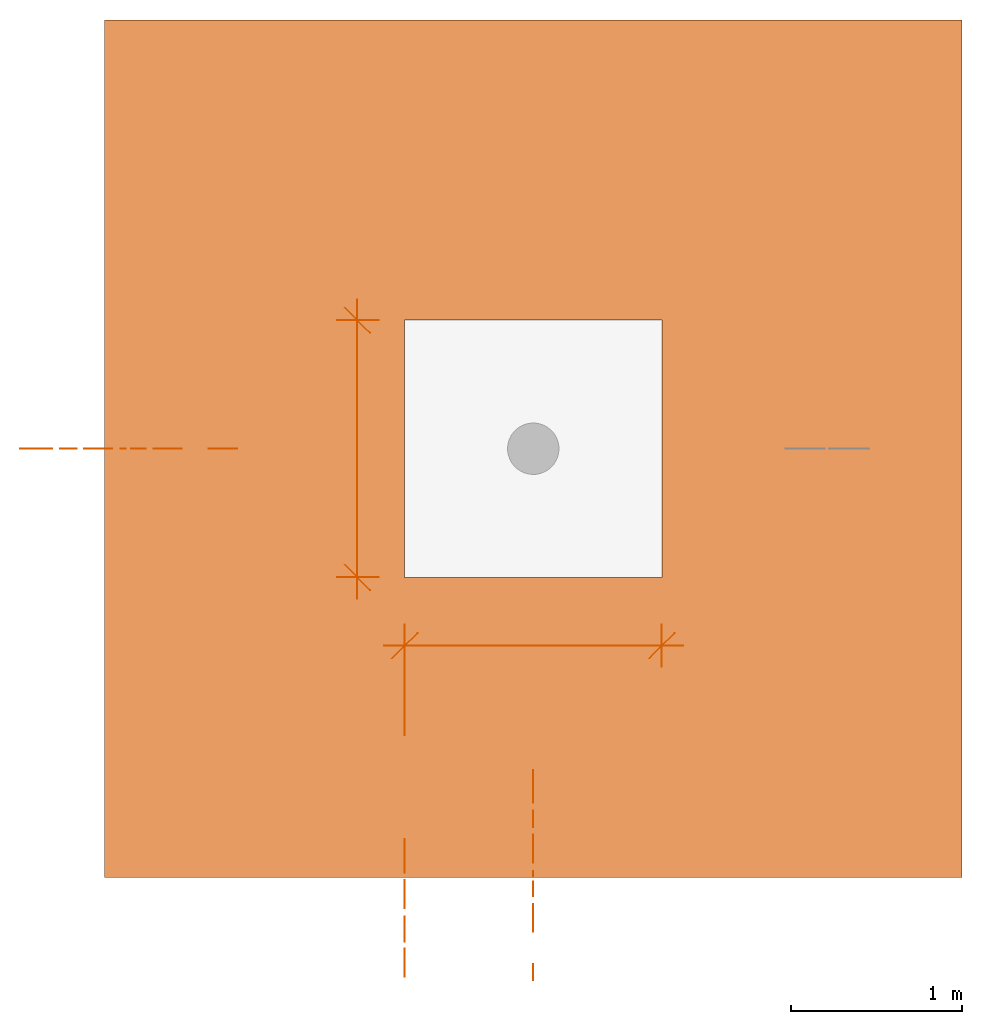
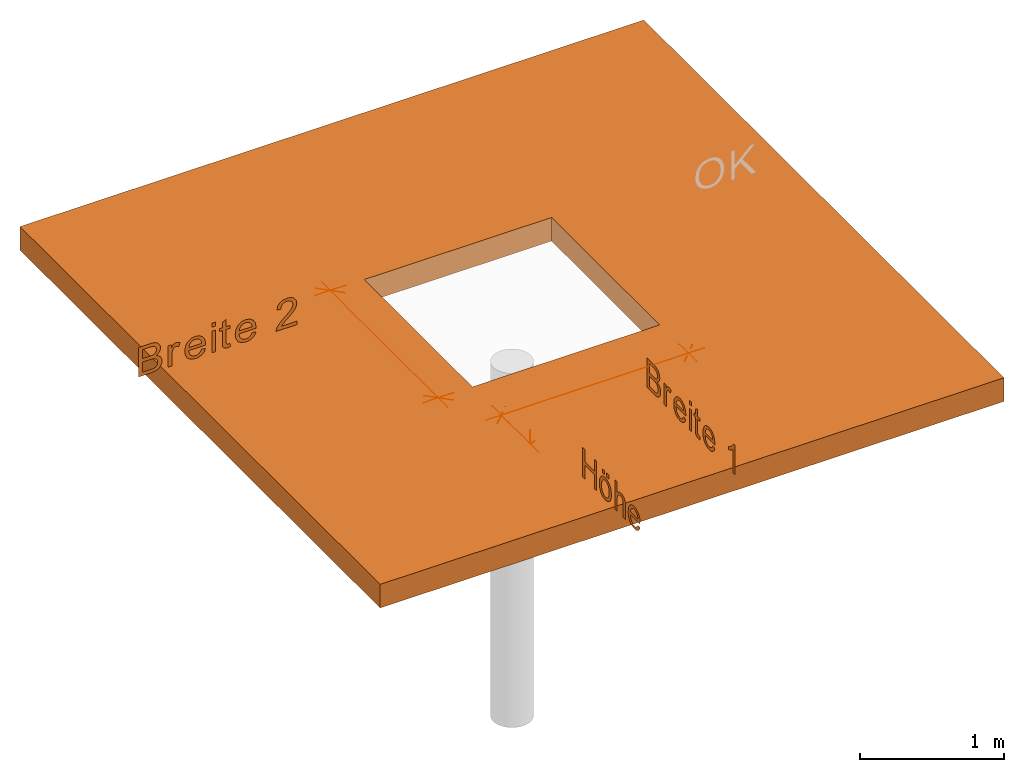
# One storey, part 2 of 3: 7 proxies, 6 elements without a shape of their own.
"""IFC4 building model written with IfcOpenShell, lengths in metres."""

from ifc_helpers import new_model, entity, si_unit, converted_unit, derived_unit, frame, origin, origin_with_axes, place, context, subcontext, project, spatial, open_shell, faceted_brep, surface_model, source, transform, mapped, element, aggregate, save


model = new_model("IFC4")

# Units and contexts
model_context = context("Model", 3, precision=1e-05, world=origin())
body_context = subcontext(model_context, "Body", "Model", "MODEL_VIEW")
ifc_project = project(units=[si_unit("LENGTHUNIT", "METRE"), si_unit("AREAUNIT", "SQUARE_METRE"), si_unit("VOLUMEUNIT", "CUBIC_METRE"), si_unit("MASSUNIT", "GRAM", prefix="KILO"), converted_unit("PLANEANGLEUNIT", "DEGREE", entity("IfcPlaneAngleMeasure", 0.0174532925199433), si_unit("PLANEANGLEUNIT", "RADIAN"), dimensions=[0, 0, 0, 0, 0, 0, 0]), derived_unit("THERMALTRANSMITTANCEUNIT", [(si_unit("POWERUNIT", "WATT"), 1), (si_unit("THERMODYNAMICTEMPERATUREUNIT", "KELVIN"), -1), (si_unit("LENGTHUNIT", "METRE"), -2)]), derived_unit("VOLUMETRICFLOWRATEUNIT", [(si_unit("LENGTHUNIT", "METRE"), 3), (converted_unit("TIMEUNIT", "hour", entity("IfcTimeMeasure", 3600.0), si_unit("TIMEUNIT", "SECOND"), dimensions=[0, 0, 1, 0, 0, 0, 0]), -1), (si_unit("LENGTHUNIT", "METRE"), -1)])], contexts=[model_context])

# Site, building, storey
site_placement = place(None, origin())
site = spatial("IfcSite", under=ifc_project, at=site_placement, Name="Liegenschaft", CompositionType="ELEMENT")
building_placement = place(site_placement, origin())
building = spatial("IfcBuilding", under=site, at=building_placement, Name="Gebäude", CompositionType="ELEMENT")
storey_placement = place(building_placement, origin())
storey = spatial("IfcBuildingStorey", under=building, at=storey_placement, Name="Geschoss 01", CompositionType="ELEMENT", Elevation=0.0)

# Assembly, proxy
assembly_1_placement = place(storey_placement, origin())
assembly_1 = element("IfcElementAssembly", 1, at=assembly_1_placement, inside=storey, Name="SpatialDim_Group", PredefinedType="NOTDEFINED")
shared_shape_1 = source(origin_with_axes(), body_context, "Axis", "Curve3D", [
    entity("IfcPolyline", [entity("IfcCartesianPoint", [0.05, 0.0499999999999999, 0.0]), entity("IfcCartesianPoint", [0.2, 0.2, 0.0])]),
    entity("IfcPolyline", [entity("IfcCartesianPoint", [0.125, 0.0, 0.0]), entity("IfcCartesianPoint", [0.125, 0.425, 0.0])]),
    entity("IfcPolyline", [entity("IfcCartesianPoint", [0.550000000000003, 0.0499999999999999, 0.0]), entity("IfcCartesianPoint", [0.700000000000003, 0.2, 0.0])]),
    entity("IfcPolyline", [entity("IfcCartesianPoint", [0.625000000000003, 0.0, 0.0]), entity("IfcCartesianPoint", [0.625000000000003, 0.425, 0.0])]),
    entity("IfcPolyline", [entity("IfcCartesianPoint", [0.0, 0.125, 0.0]), entity("IfcCartesianPoint", [0.750000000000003, 0.125, 0.0])]),
])
proxy_1_placement = place(assembly_1_placement, frame((268.067467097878, 0.111335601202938, 0.125), z_axis=(1.0, 0.0, 1.22464679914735e-16), x_axis=(1.22464679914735e-16, 0.0, -1.0)))
proxy_1 = element("IfcBuildingElementProxy", 2, at=proxy_1_placement, Name="macro", context=body_context, shape_type="MappedRepresentation", body=[
    mapped(shared_shape_1, transform((0.0, 0.0, 0.0), x_axis=(1.0, 0.0, 0.0), y_axis=(0.0, 1.0, 0.0), z_axis=(0.0, 0.0, 1.0), scale=1.0)),
])
aggregate(assembly_1, [proxy_1])

assembly_2_placement = place(storey_placement, origin())
assembly_2 = element("IfcElementAssembly", 3, at=assembly_2_placement, inside=storey, Name="SpatialDim_Group", PredefinedType="NOTDEFINED")
shared_shape_2 = source(origin_with_axes(), body_context, "Body", "SurfaceModel", [
    surface_model("IfcShellBasedSurfaceModel", [(0.414145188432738, 0.801, 0.0), (0.414145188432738, 0.768, 0.0), (0.532145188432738, 0.768, 0.0), (0.532145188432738, 0.638, 0.0), (0.414145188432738, 0.638, 0.0), (0.414145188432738, 0.605, 0.0), (0.664145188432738, 0.605, 0.0), (0.664145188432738, 0.638, 0.0), (0.561145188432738, 0.638, 0.0), (0.561145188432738, 0.768, 0.0), (0.664145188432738, 0.768, 0.0), (0.664145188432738, 0.801, 0.0)], [open_shell([[[0, 1, 2, 3, 4, 5, 6, 7, 8, 9, 10, 11]]], orient=[[False]])]),
    surface_model("IfcShellBasedSurfaceModel", [(0.617145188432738, 0.465, 0.0), (0.617145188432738, 0.433, 0.0), (0.651145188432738, 0.433, 0.0), (0.651145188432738, 0.465, 0.0), (0.617145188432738, 0.527, 0.0), (0.617145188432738, 0.495, 0.0), (0.651145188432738, 0.495, 0.0), (0.651145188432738, 0.527, 0.0), (0.464020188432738, 0.562125, 0.0), (0.434145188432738, 0.545, 0.0), (0.416145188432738, 0.517875, 0.0), (0.410145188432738, 0.484, 0.0), (0.413020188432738, 0.461, 0.0), (0.421145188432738, 0.441, 0.0), (0.434770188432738, 0.422875, 0.0), (0.452145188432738, 0.41, 0.0), (0.476270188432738, 0.402375, 0.0), (0.507145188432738, 0.4, 0.0), (0.546020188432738, 0.405875, 0.0), (0.575145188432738, 0.423, 0.0), (0.593145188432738, 0.4505, 0.0), (0.599145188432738, 0.484, 0.0), (0.594020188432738, 0.514625, 0.0), (0.579145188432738, 0.54, 0.0), (0.548520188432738, 0.561125, 0.0), (0.505145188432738, 0.568, 0.0), (0.474520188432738, 0.53325, 0.0), (0.505145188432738, 0.537, 0.0), (0.535270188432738, 0.53325, 0.0), (0.557145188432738, 0.522, 0.0), (0.570145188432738, 0.504875, 0.0), (0.574145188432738, 0.484, 0.0), (0.569770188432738, 0.46275, 0.0), (0.557145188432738, 0.446, 0.0), (0.535395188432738, 0.43475, 0.0), (0.506145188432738, 0.431, 0.0), (0.474645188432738, 0.43475, 0.0), (0.452145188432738, 0.446, 0.0), (0.439145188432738, 0.463125, 0.0), (0.435145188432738, 0.484, 0.0), (0.439520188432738, 0.50525, 0.0), (0.452145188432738, 0.522, 0.0)], [open_shell([[[0, 1, 2, 3]], [[4, 5, 6, 7]], [[8, 9, 10, 11, 12, 13, 14, 15, 16, 17, 18, 19, 20, 21, 22, 23, 24, 25], [26, 27, 28, 29, 30, 31, 32, 33, 34, 35, 36, 37, 38, 39, 40, 41]]], orient=[[False], [False], [False, False]])]),
    surface_model("IfcShellBasedSurfaceModel", [(0.414145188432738, 0.351, 0.0), (0.414145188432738, 0.32, 0.0), (0.513145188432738, 0.32, 0.0), (0.532770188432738, 0.318625, 0.0), (0.547145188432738, 0.315, 0.0), (0.558145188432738, 0.308, 0.0), (0.566145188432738, 0.298, 0.0), (0.571520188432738, 0.285875, 0.0), (0.573145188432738, 0.273, 0.0), (0.570395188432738, 0.25725, 0.0), (0.563145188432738, 0.246, 0.0), (0.548770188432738, 0.238375, 0.0), (0.529145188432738, 0.236, 0.0), (0.414145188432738, 0.236, 0.0), (0.414145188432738, 0.205, 0.0), (0.529145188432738, 0.205, 0.0), (0.552520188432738, 0.2065, 0.0), (0.569145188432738, 0.211, 0.0), (0.582020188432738, 0.22, 0.0), (0.591145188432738, 0.232, 0.0), (0.597395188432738, 0.248375, 0.0), (0.599145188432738, 0.267, 0.0), (0.593145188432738, 0.2965, 0.0), (0.575145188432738, 0.32, 0.0), (0.664145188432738, 0.32, 0.0), (0.664145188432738, 0.351, 0.0)], [open_shell([[[0, 1, 2, 3, 4, 5, 6, 7, 8, 9, 10, 11, 12, 13, 14, 15, 16, 17, 18, 19, 20, 21, 22, 23, 24, 25]]], orient=[[False]])]),
    surface_model("IfcShellBasedSurfaceModel", [(0.472145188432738, 0.032, 0.0), (0.455520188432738, 0.040875, 0.0), (0.444145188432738, 0.052, 0.0), (0.437395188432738, 0.065375, 0.0), (0.435145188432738, 0.081, 0.0), (0.439395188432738, 0.10275, 0.0), (0.451145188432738, 0.12, 0.0), (0.470770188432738, 0.131875, 0.0), (0.497145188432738, 0.137, 0.0), (0.497145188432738, 0.0, 0.0), (0.501895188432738, 0.0, 0.0), (0.505145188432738, 0.0, 0.0), (0.544895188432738, 0.005875, 0.0), (0.574145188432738, 0.023, 0.0), (0.593020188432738, 0.05, 0.0), (0.599145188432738, 0.083, 0.0), (0.592645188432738, 0.117625, 0.0), (0.574145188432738, 0.144, 0.0), (0.543520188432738, 0.162, 0.0), (0.503145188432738, 0.168, 0.0), (0.463395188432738, 0.162125, 0.0), (0.434145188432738, 0.145, 0.0), (0.416145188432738, 0.11675, 0.0), (0.410145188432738, 0.081, 0.0), (0.413895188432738, 0.051625, 0.0), (0.425145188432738, 0.029, 0.0), (0.443645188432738, 0.011625, 0.0), (0.468145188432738, 0.001, 0.0), (0.541770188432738, 0.03575, 0.0), (0.522145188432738, 0.032, 0.0), (0.522145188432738, 0.136, 0.0), (0.543770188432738, 0.130625, 0.0), (0.560145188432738, 0.12, 0.0), (0.570895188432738, 0.103, 0.0), (0.574145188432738, 0.083, 0.0), (0.569645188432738, 0.06125, 0.0), (0.556145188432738, 0.044, 0.0)], [open_shell([[[0, 1, 2, 3, 4, 5, 6, 7, 8, 9, 10, 11, 12, 13, 14, 15, 16, 17, 18, 19, 20, 21, 22, 23, 24, 25, 26, 27], [28, 29, 30, 31, 32, 33, 34, 35, 36]]], orient=[[False, False]])]),
])
proxy_2_placement = place(assembly_2_placement, frame((268.067467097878, -1.29266439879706, -0.250000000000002), z_axis=(-1.0, 0.0, 1.22464679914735e-16), x_axis=(1.22464679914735e-16, 0.0, 1.0)))
proxy_2 = element("IfcBuildingElementProxy", 4, at=proxy_2_placement, Name="macro", context=body_context, shape_type="MappedRepresentation", body=[
    mapped(shared_shape_2, transform((0.0, 0.0, 0.0), x_axis=(1.0, 0.0, 0.0), y_axis=(0.0, 1.0, 0.0), z_axis=(0.0, 0.0, 1.0), scale=1.0)),
])
aggregate(assembly_2, [proxy_2])

assembly_3_placement = place(storey_placement, origin())
assembly_3 = element("IfcElementAssembly", 5, at=assembly_3_placement, inside=storey, Name="SpatialDim_Group", PredefinedType="NOTDEFINED")
shared_shape_3 = source(origin_with_axes(), body_context, "Axis", "Curve3D", [
    entity("IfcPolyline", [entity("IfcCartesianPoint", [0.05, 0.05, 0.0]), entity("IfcCartesianPoint", [0.2, 0.2, 0.0])]),
    entity("IfcPolyline", [entity("IfcCartesianPoint", [0.125, 0.0, 0.0]), entity("IfcCartesianPoint", [0.125, 0.25, 0.0])]),
    entity("IfcPolyline", [entity("IfcCartesianPoint", [1.55, 0.05, 0.0]), entity("IfcCartesianPoint", [1.7, 0.2, 0.0])]),
    entity("IfcPolyline", [entity("IfcCartesianPoint", [1.625, 0.0, 0.0]), entity("IfcCartesianPoint", [1.625, 0.25, 0.0])]),
    entity("IfcPolyline", [entity("IfcCartesianPoint", [0.0, 0.125, 0.0]), entity("IfcCartesianPoint", [1.75, 0.125, 0.0])]),
])
proxy_3_placement = place(assembly_3_placement, frame((267.942467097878, 0.511335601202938, 0.0)))
proxy_3 = element("IfcBuildingElementProxy", 6, at=proxy_3_placement, Name="macro", context=body_context, shape_type="MappedRepresentation", body=[
    mapped(shared_shape_3, transform((0.0, 0.0, 0.0), x_axis=(1.0, 0.0, 0.0), y_axis=(0.0, 1.0, 0.0), z_axis=(0.0, 0.0, 1.0), scale=1.0)),
])
aggregate(assembly_3, [proxy_3])

assembly_4_placement = place(storey_placement, origin())
assembly_4 = element("IfcElementAssembly", 7, at=assembly_4_placement, inside=storey, Name="SpatialDim_Group", PredefinedType="NOTDEFINED")
shared_shape_4 = source(origin_with_axes(), body_context, "Body", "SurfaceModel", [
    surface_model("IfcShellBasedSurfaceModel", [(0.414145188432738, 1.222, 0.0), (0.414145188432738, 1.127, 0.0), (0.415395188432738, 1.10475, 0.0), (0.418145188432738, 1.087, 0.0), (0.423395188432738, 1.072, 0.0), (0.430145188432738, 1.06, 0.0), (0.440645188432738, 1.049375, 0.0), (0.454145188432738, 1.041, 0.0), (0.469770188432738, 1.035625, 0.0), (0.486145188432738, 1.034, 0.0), (0.506520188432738, 1.037, 0.0), (0.523145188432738, 1.046, 0.0), (0.537270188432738, 1.061625, 0.0), (0.546145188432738, 1.081, 0.0), (0.556520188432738, 1.06575, 0.0), (0.569145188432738, 1.055, 0.0), (0.584270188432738, 1.04825, 0.0), (0.600145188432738, 1.046, 0.0), (0.617395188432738, 1.04875, 0.0), (0.633145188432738, 1.056, 0.0), (0.647270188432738, 1.068, 0.0), (0.656145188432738, 1.083, 0.0), (0.662395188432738, 1.103375, 0.0), (0.664145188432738, 1.129, 0.0), (0.664145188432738, 1.222, 0.0), (0.558895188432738, 1.116875, 0.0), (0.558145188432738, 1.135, 0.0), (0.558145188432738, 1.189, 0.0), (0.635145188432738, 1.189, 0.0), (0.635145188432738, 1.139, 0.0), (0.633895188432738, 1.116375, 0.0), (0.631145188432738, 1.102, 0.0), (0.626145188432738, 1.092, 0.0), (0.618145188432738, 1.085, 0.0), (0.607895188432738, 1.0805, 0.0), (0.596145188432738, 1.079, 0.0), (0.584020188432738, 1.0805, 0.0), (0.574145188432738, 1.085, 0.0), (0.566145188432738, 1.093375, 0.0), (0.561145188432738, 1.104, 0.0), (0.443270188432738, 1.11375, 0.0), (0.443145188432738, 1.127, 0.0), (0.443145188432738, 1.189, 0.0), (0.529145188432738, 1.189, 0.0), (0.529145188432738, 1.132, 0.0), (0.527895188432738, 1.1105, 0.0), (0.525145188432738, 1.095, 0.0), (0.519145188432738, 1.083875, 0.0), (0.510145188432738, 1.075, 0.0), (0.498895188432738, 1.069625, 0.0), (0.486145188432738, 1.068, 0.0), (0.474895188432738, 1.069375, 0.0), (0.465145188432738, 1.073, 0.0), (0.457020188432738, 1.079125, 0.0), (0.451145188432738, 1.086, 0.0), (0.446520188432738, 1.094375, 0.0), (0.444145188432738, 1.105, 0.0)], [open_shell([[[0, 1, 2, 3, 4, 5, 6, 7, 8, 9, 10, 11, 12, 13, 14, 15, 16, 17, 18, 19, 20, 21, 22, 23, 24], [25, 26, 27, 28, 29, 30, 31, 32, 33, 34, 35, 36, 37, 38, 39], [40, 41, 42, 43, 44, 45, 46, 47, 48, 49, 50, 51, 52, 53, 54, 55, 56]]], orient=[[False, False, False]])]),
    surface_model("IfcShellBasedSurfaceModel", [(0.414145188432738, 0.986, 0.0), (0.414145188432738, 0.955, 0.0), (0.509145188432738, 0.955, 0.0), (0.527770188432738, 0.953625, 0.0), (0.544145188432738, 0.95, 0.0), (0.554145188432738, 0.945625, 0.0), (0.561145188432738, 0.939, 0.0), (0.565645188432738, 0.93, 0.0), (0.567145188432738, 0.921, 0.0), (0.565645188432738, 0.90975, 0.0), (0.561145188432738, 0.9, 0.0), (0.589145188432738, 0.889, 0.0), (0.596770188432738, 0.904875, 0.0), (0.599145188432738, 0.92, 0.0), (0.597645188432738, 0.93075, 0.0), (0.593145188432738, 0.94, 0.0), (0.583520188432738, 0.9495, 0.0), (0.567145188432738, 0.959, 0.0), (0.595145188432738, 0.959, 0.0), (0.595145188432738, 0.986, 0.0)], [open_shell([[[0, 1, 2, 3, 4, 5, 6, 7, 8, 9, 10, 11, 12, 13, 14, 15, 16, 17, 18, 19]]], orient=[[False]])]),
    surface_model("IfcShellBasedSurfaceModel", [(0.472145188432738, 0.716, 0.0), (0.455520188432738, 0.724875, 0.0), (0.444145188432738, 0.736, 0.0), (0.437395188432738, 0.749375, 0.0), (0.435145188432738, 0.765, 0.0), (0.439395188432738, 0.78675, 0.0), (0.451145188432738, 0.804, 0.0), (0.470770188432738, 0.815875, 0.0), (0.497145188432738, 0.821, 0.0), (0.497145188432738, 0.684, 0.0), (0.501895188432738, 0.684, 0.0), (0.505145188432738, 0.684, 0.0), (0.544895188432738, 0.689875, 0.0), (0.574145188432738, 0.707, 0.0), (0.593020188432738, 0.734, 0.0), (0.599145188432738, 0.767, 0.0), (0.592645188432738, 0.801625, 0.0), (0.574145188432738, 0.828, 0.0), (0.543520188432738, 0.846, 0.0), (0.503145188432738, 0.852, 0.0), (0.463395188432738, 0.846125, 0.0), (0.434145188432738, 0.829, 0.0), (0.416145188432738, 0.80075, 0.0), (0.410145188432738, 0.765, 0.0), (0.413895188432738, 0.735625, 0.0), (0.425145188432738, 0.713, 0.0), (0.443645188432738, 0.695625, 0.0), (0.468145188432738, 0.685, 0.0), (0.541770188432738, 0.71975, 0.0), (0.522145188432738, 0.716, 0.0), (0.522145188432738, 0.82, 0.0), (0.543770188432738, 0.814625, 0.0), (0.560145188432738, 0.804, 0.0), (0.570895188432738, 0.787, 0.0), (0.574145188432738, 0.767, 0.0), (0.569645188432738, 0.74525, 0.0), (0.556145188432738, 0.728, 0.0)], [open_shell([[[0, 1, 2, 3, 4, 5, 6, 7, 8, 9, 10, 11, 12, 13, 14, 15, 16, 17, 18, 19, 20, 21, 22, 23, 24, 25, 26, 27], [28, 29, 30, 31, 32, 33, 34, 35, 36]]], orient=[[False, False]])]),
    surface_model("IfcShellBasedSurfaceModel", [(0.414145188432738, 0.635, 0.0), (0.414145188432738, 0.604, 0.0), (0.595145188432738, 0.604, 0.0), (0.595145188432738, 0.635, 0.0), (0.630145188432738, 0.635, 0.0), (0.630145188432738, 0.604, 0.0), (0.664145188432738, 0.604, 0.0), (0.664145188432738, 0.635, 0.0)], [open_shell([[[0, 1, 2, 3]], [[4, 5, 6, 7]]], orient=[[False], [False]])]),
    surface_model("IfcShellBasedSurfaceModel", [(0.442145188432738, 0.489, 0.0), (0.441270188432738, 0.49675, 0.0), (0.441145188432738, 0.503, 0.0), (0.441770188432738, 0.50875, 0.0), (0.443145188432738, 0.513, 0.0), (0.446145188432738, 0.516625, 0.0), (0.449145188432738, 0.518, 0.0), (0.455770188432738, 0.51975, 0.0), (0.466145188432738, 0.52, 0.0), (0.571145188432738, 0.52, 0.0), (0.571145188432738, 0.489, 0.0), (0.595145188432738, 0.489, 0.0), (0.595145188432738, 0.52, 0.0), (0.658145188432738, 0.52, 0.0), (0.640145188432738, 0.551, 0.0), (0.595145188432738, 0.551, 0.0), (0.595145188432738, 0.574, 0.0), (0.571145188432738, 0.574, 0.0), (0.571145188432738, 0.551, 0.0), (0.467145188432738, 0.551, 0.0), (0.444645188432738, 0.54975, 0.0), (0.431145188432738, 0.547, 0.0), (0.423395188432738, 0.541625, 0.0), (0.417145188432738, 0.534, 0.0), (0.413145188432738, 0.522875, 0.0), (0.412145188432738, 0.508, 0.0), (0.412895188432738, 0.496875, 0.0), (0.415145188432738, 0.485, 0.0)], [open_shell([[[0, 1, 2, 3, 4, 5, 6, 7, 8, 9, 10, 11, 12, 13, 14, 15, 16, 17, 18, 19, 20, 21, 22, 23, 24, 25, 26, 27]]], orient=[[False]])]),
    surface_model("IfcShellBasedSurfaceModel", [(0.472145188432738, 0.312, 0.0), (0.455520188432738, 0.320875, 0.0), (0.444145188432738, 0.332, 0.0), (0.437395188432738, 0.345375, 0.0), (0.435145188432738, 0.361, 0.0), (0.439395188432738, 0.38275, 0.0), (0.451145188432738, 0.4, 0.0), (0.470770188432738, 0.411875, 0.0), (0.497145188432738, 0.417, 0.0), (0.497145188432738, 0.28, 0.0), (0.501895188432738, 0.28, 0.0), (0.505145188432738, 0.28, 0.0), (0.544895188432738, 0.285875, 0.0), (0.574145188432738, 0.303, 0.0), (0.593020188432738, 0.33, 0.0), (0.599145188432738, 0.363, 0.0), (0.592645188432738, 0.397625, 0.0), (0.574145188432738, 0.424, 0.0), (0.543520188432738, 0.442, 0.0), (0.503145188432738, 0.448, 0.0), (0.463395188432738, 0.442125, 0.0), (0.434145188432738, 0.425, 0.0), (0.416145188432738, 0.39675, 0.0), (0.410145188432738, 0.361, 0.0), (0.413895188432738, 0.331625, 0.0), (0.425145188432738, 0.309, 0.0), (0.443645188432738, 0.291625, 0.0), (0.468145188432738, 0.281, 0.0), (0.541770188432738, 0.31575, 0.0), (0.522145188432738, 0.312, 0.0), (0.522145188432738, 0.416, 0.0), (0.543770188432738, 0.410625, 0.0), (0.560145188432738, 0.4, 0.0), (0.570895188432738, 0.383, 0.0), (0.574145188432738, 0.363, 0.0), (0.569645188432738, 0.34125, 0.0), (0.556145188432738, 0.324, 0.0)], [open_shell([[[0, 1, 2, 3, 4, 5, 6, 7, 8, 9, 10, 11, 12, 13, 14, 15, 16, 17, 18, 19, 20, 21, 22, 23, 24, 25, 26, 27], [28, 29, 30, 31, 32, 33, 34, 35, 36]]], orient=[[False, False]])]),
    surface_model("IfcShellBasedSurfaceModel", [(0.414145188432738, 0.0, 0.0), (0.665145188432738, 0.0, 0.0), (0.665145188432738, 0.0200000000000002, 0.0), (0.648645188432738, 0.0312500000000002, 0.0), (0.632145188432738, 0.0470000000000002, 0.0), (0.615645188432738, 0.0680000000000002, 0.0), (0.602145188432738, 0.0920000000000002, 0.0), (0.573145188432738, 0.0920000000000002, 0.0), (0.579895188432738, 0.0767500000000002, 0.0), (0.588145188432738, 0.0600000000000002, 0.0), (0.599520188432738, 0.0436250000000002, 0.0), (0.610145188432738, 0.0310000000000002, 0.0), (0.414145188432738, 0.0310000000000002, 0.0)], [open_shell([[[0, 1, 2, 3, 4, 5, 6, 7, 8, 9, 10, 11, 12]]], orient=[[False]])]),
])
proxy_4_placement = place(assembly_4_placement, frame((268.817467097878, -1.31166439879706, 0.0), z_axis=(-1.0, 0.0, 1.22464679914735e-16), x_axis=(1.22464679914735e-16, 0.0, 1.0)))
proxy_4 = element("IfcBuildingElementProxy", 8, at=proxy_4_placement, Name="macro", context=body_context, shape_type="MappedRepresentation", body=[
    mapped(shared_shape_4, transform((0.0, 0.0, 0.0), x_axis=(1.0, 0.0, 0.0), y_axis=(0.0, 1.0, 0.0), z_axis=(0.0, 0.0, 1.0), scale=1.0)),
])
aggregate(assembly_4, [proxy_4])

assembly_5_placement = place(storey_placement, origin())
assembly_5 = element("IfcElementAssembly", 9, at=assembly_5_placement, inside=storey, Name="SpatialDim_Group", PredefinedType="NOTDEFINED")
shared_shape_5 = source(origin_with_axes(), body_context, "Axis", "Curve3D", [
    entity("IfcPolyline", [entity("IfcCartesianPoint", [0.05, 0.05, 0.0]), entity("IfcCartesianPoint", [0.2, 0.2, 0.0])]),
    entity("IfcPolyline", [entity("IfcCartesianPoint", [0.125, 0.0, 0.0]), entity("IfcCartesianPoint", [0.125, 0.25, 0.0])]),
    entity("IfcPolyline", [entity("IfcCartesianPoint", [1.55, 0.05, 0.0]), entity("IfcCartesianPoint", [1.7, 0.2, 0.0])]),
    entity("IfcPolyline", [entity("IfcCartesianPoint", [1.625, 0.0, 0.0]), entity("IfcCartesianPoint", [1.625, 0.25, 0.0])]),
    entity("IfcPolyline", [entity("IfcCartesianPoint", [0.0, 0.125, 0.0]), entity("IfcCartesianPoint", [1.75, 0.125, 0.0])]),
])
proxy_5_placement = place(assembly_5_placement, frame((267.667467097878, 2.66133560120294, 0.0), z_axis=(0.0, 0.0, 1.0), x_axis=(1.22464679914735e-16, -1.0, 0.0)))
proxy_5 = element("IfcBuildingElementProxy", 10, at=proxy_5_placement, Name="macro", context=body_context, shape_type="MappedRepresentation", body=[
    mapped(shared_shape_5, transform((0.0, 0.0, 0.0), x_axis=(1.0, 0.0, 0.0), y_axis=(0.0, 1.0, 0.0), z_axis=(0.0, 0.0, 1.0), scale=1.0)),
])
aggregate(assembly_5, [proxy_5])

assembly_6_placement = place(storey_placement, origin())
assembly_6 = element("IfcElementAssembly", 11, at=assembly_6_placement, inside=storey, Name="SpatialDim_Group", PredefinedType="NOTDEFINED")
shared_shape_6 = source(origin_with_axes(), body_context, "Body", "SurfaceModel", [
    surface_model("IfcShellBasedSurfaceModel", [(0.414145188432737, 1.968, 0.0), (0.414145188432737, 1.873, 0.0), (0.415395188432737, 1.85075, 0.0), (0.418145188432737, 1.833, 0.0), (0.423395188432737, 1.818, 0.0), (0.430145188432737, 1.806, 0.0), (0.440645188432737, 1.795375, 0.0), (0.454145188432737, 1.787, 0.0), (0.469770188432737, 1.781625, 0.0), (0.486145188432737, 1.78, 0.0), (0.506520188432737, 1.783, 0.0), (0.523145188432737, 1.792, 0.0), (0.537270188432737, 1.807625, 0.0), (0.546145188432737, 1.827, 0.0), (0.556520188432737, 1.81175, 0.0), (0.569145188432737, 1.801, 0.0), (0.584270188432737, 1.79425, 0.0), (0.600145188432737, 1.792, 0.0), (0.617395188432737, 1.79475, 0.0), (0.633145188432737, 1.802, 0.0), (0.647270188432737, 1.814, 0.0), (0.656145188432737, 1.829, 0.0), (0.662395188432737, 1.849375, 0.0), (0.664145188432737, 1.875, 0.0), (0.664145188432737, 1.968, 0.0), (0.558895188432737, 1.862875, 0.0), (0.558145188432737, 1.881, 0.0), (0.558145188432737, 1.935, 0.0), (0.635145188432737, 1.935, 0.0), (0.635145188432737, 1.885, 0.0), (0.633895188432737, 1.862375, 0.0), (0.631145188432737, 1.848, 0.0), (0.626145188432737, 1.838, 0.0), (0.618145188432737, 1.831, 0.0), (0.607895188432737, 1.8265, 0.0), (0.596145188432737, 1.825, 0.0), (0.584020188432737, 1.8265, 0.0), (0.574145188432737, 1.831, 0.0), (0.566145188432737, 1.839375, 0.0), (0.561145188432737, 1.85, 0.0), (0.443270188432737, 1.85975, 0.0), (0.443145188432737, 1.873, 0.0), (0.443145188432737, 1.935, 0.0), (0.529145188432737, 1.935, 0.0), (0.529145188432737, 1.878, 0.0), (0.527895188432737, 1.8565, 0.0), (0.525145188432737, 1.841, 0.0), (0.519145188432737, 1.829875, 0.0), (0.510145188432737, 1.821, 0.0), (0.498895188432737, 1.815625, 0.0), (0.486145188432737, 1.814, 0.0), (0.474895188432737, 1.815375, 0.0), (0.465145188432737, 1.819, 0.0), (0.457020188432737, 1.825125, 0.0), (0.451145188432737, 1.832, 0.0), (0.446520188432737, 1.840375, 0.0), (0.444145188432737, 1.851, 0.0)], [open_shell([[[0, 1, 2, 3, 4, 5, 6, 7, 8, 9, 10, 11, 12, 13, 14, 15, 16, 17, 18, 19, 20, 21, 22, 23, 24], [25, 26, 27, 28, 29, 30, 31, 32, 33, 34, 35, 36, 37, 38, 39], [40, 41, 42, 43, 44, 45, 46, 47, 48, 49, 50, 51, 52, 53, 54, 55, 56]]], orient=[[False, False, False]])]),
    surface_model("IfcShellBasedSurfaceModel", [(0.414145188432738, 1.732, 0.0), (0.414145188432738, 1.701, 0.0), (0.509145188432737, 1.701, 0.0), (0.527770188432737, 1.699625, 0.0), (0.544145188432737, 1.696, 0.0), (0.554145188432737, 1.691625, 0.0), (0.561145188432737, 1.685, 0.0), (0.565645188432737, 1.676, 0.0), (0.567145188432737, 1.667, 0.0), (0.565645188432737, 1.65575, 0.0), (0.561145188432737, 1.646, 0.0), (0.589145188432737, 1.635, 0.0), (0.596770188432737, 1.650875, 0.0), (0.599145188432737, 1.666, 0.0), (0.597645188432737, 1.67675, 0.0), (0.593145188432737, 1.686, 0.0), (0.583520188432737, 1.6955, 0.0), (0.567145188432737, 1.705, 0.0), (0.595145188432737, 1.705, 0.0), (0.595145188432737, 1.732, 0.0)], [open_shell([[[0, 1, 2, 3, 4, 5, 6, 7, 8, 9, 10, 11, 12, 13, 14, 15, 16, 17, 18, 19]]], orient=[[False]])]),
    surface_model("IfcShellBasedSurfaceModel", [(0.472145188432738, 1.462, 0.0), (0.455520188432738, 1.470875, 0.0), (0.444145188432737, 1.482, 0.0), (0.437395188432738, 1.495375, 0.0), (0.435145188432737, 1.511, 0.0), (0.439395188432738, 1.53275, 0.0), (0.451145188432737, 1.55, 0.0), (0.470770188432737, 1.561875, 0.0), (0.497145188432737, 1.567, 0.0), (0.497145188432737, 1.43, 0.0), (0.501895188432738, 1.43, 0.0), (0.505145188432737, 1.43, 0.0), (0.544895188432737, 1.435875, 0.0), (0.574145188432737, 1.453, 0.0), (0.593020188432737, 1.48, 0.0), (0.599145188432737, 1.513, 0.0), (0.592645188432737, 1.547625, 0.0), (0.574145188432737, 1.574, 0.0), (0.543520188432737, 1.592, 0.0), (0.503145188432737, 1.598, 0.0), (0.463395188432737, 1.592125, 0.0), (0.434145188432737, 1.575, 0.0), (0.416145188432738, 1.54675, 0.0), (0.410145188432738, 1.511, 0.0), (0.413895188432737, 1.481625, 0.0), (0.425145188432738, 1.459, 0.0), (0.443645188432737, 1.441625, 0.0), (0.468145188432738, 1.431, 0.0), (0.541770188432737, 1.46575, 0.0), (0.522145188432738, 1.462, 0.0), (0.522145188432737, 1.566, 0.0), (0.543770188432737, 1.560625, 0.0), (0.560145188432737, 1.55, 0.0), (0.570895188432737, 1.533, 0.0), (0.574145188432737, 1.513, 0.0), (0.569645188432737, 1.49125, 0.0), (0.556145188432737, 1.474, 0.0)], [open_shell([[[0, 1, 2, 3, 4, 5, 6, 7, 8, 9, 10, 11, 12, 13, 14, 15, 16, 17, 18, 19, 20, 21, 22, 23, 24, 25, 26, 27], [28, 29, 30, 31, 32, 33, 34, 35, 36]]], orient=[[False, False]])]),
    surface_model("IfcShellBasedSurfaceModel", [(0.414145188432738, 1.381, 0.0), (0.414145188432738, 1.35, 0.0), (0.595145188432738, 1.35, 0.0), (0.595145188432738, 1.381, 0.0), (0.630145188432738, 1.381, 0.0), (0.630145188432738, 1.35, 0.0), (0.664145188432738, 1.35, 0.0), (0.664145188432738, 1.381, 0.0)], [open_shell([[[0, 1, 2, 3]], [[4, 5, 6, 7]]], orient=[[False], [False]])]),
    surface_model("IfcShellBasedSurfaceModel", [(0.442145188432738, 1.235, 0.0), (0.441270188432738, 1.24275, 0.0), (0.441145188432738, 1.249, 0.0), (0.441770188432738, 1.25475, 0.0), (0.443145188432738, 1.259, 0.0), (0.446145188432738, 1.262625, 0.0), (0.449145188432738, 1.264, 0.0), (0.455770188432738, 1.26575, 0.0), (0.466145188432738, 1.266, 0.0), (0.571145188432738, 1.266, 0.0), (0.571145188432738, 1.235, 0.0), (0.595145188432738, 1.235, 0.0), (0.595145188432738, 1.266, 0.0), (0.658145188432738, 1.266, 0.0), (0.640145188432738, 1.297, 0.0), (0.595145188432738, 1.297, 0.0), (0.595145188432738, 1.32, 0.0), (0.571145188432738, 1.32, 0.0), (0.571145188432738, 1.297, 0.0), (0.467145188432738, 1.297, 0.0), (0.444645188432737, 1.29575, 0.0), (0.431145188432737, 1.293, 0.0), (0.423395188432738, 1.287625, 0.0), (0.417145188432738, 1.28, 0.0), (0.413145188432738, 1.268875, 0.0), (0.412145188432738, 1.254, 0.0), (0.412895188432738, 1.242875, 0.0), (0.415145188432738, 1.231, 0.0)], [open_shell([[[0, 1, 2, 3, 4, 5, 6, 7, 8, 9, 10, 11, 12, 13, 14, 15, 16, 17, 18, 19, 20, 21, 22, 23, 24, 25, 26, 27]]], orient=[[False]])]),
    surface_model("IfcShellBasedSurfaceModel", [(0.472145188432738, 1.058, 0.0), (0.455520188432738, 1.066875, 0.0), (0.444145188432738, 1.078, 0.0), (0.437395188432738, 1.091375, 0.0), (0.435145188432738, 1.107, 0.0), (0.439395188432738, 1.12875, 0.0), (0.451145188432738, 1.146, 0.0), (0.470770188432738, 1.157875, 0.0), (0.497145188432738, 1.163, 0.0), (0.497145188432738, 1.026, 0.0), (0.501895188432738, 1.026, 0.0), (0.505145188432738, 1.026, 0.0), (0.544895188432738, 1.031875, 0.0), (0.574145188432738, 1.049, 0.0), (0.593020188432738, 1.076, 0.0), (0.599145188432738, 1.109, 0.0), (0.592645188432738, 1.143625, 0.0), (0.574145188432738, 1.17, 0.0), (0.543520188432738, 1.188, 0.0), (0.503145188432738, 1.194, 0.0), (0.463395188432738, 1.188125, 0.0), (0.434145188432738, 1.171, 0.0), (0.416145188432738, 1.14275, 0.0), (0.410145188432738, 1.107, 0.0), (0.413895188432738, 1.077625, 0.0), (0.425145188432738, 1.055, 0.0), (0.443645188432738, 1.037625, 0.0), (0.468145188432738, 1.027, 0.0), (0.541770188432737, 1.06175, 0.0), (0.522145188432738, 1.058, 0.0), (0.522145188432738, 1.162, 0.0), (0.543770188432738, 1.156625, 0.0), (0.560145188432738, 1.146, 0.0), (0.570895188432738, 1.129, 0.0), (0.574145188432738, 1.109, 0.0), (0.569645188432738, 1.08725, 0.0), (0.556145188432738, 1.07, 0.0)], [open_shell([[[0, 1, 2, 3, 4, 5, 6, 7, 8, 9, 10, 11, 12, 13, 14, 15, 16, 17, 18, 19, 20, 21, 22, 23, 24, 25, 26, 27], [28, 29, 30, 31, 32, 33, 34, 35, 36]]], orient=[[False, False]])]),
    surface_model("IfcShellBasedSurfaceModel", [(0.443145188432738, 0.699999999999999, 0.0), (0.443145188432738, 0.822999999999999, 0.0), (0.451645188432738, 0.816874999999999, 0.0), (0.460145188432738, 0.809999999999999, 0.0), (0.472270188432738, 0.796499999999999, 0.0), (0.491145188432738, 0.773999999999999, 0.0), (0.516520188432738, 0.745624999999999, 0.0), (0.535145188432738, 0.726999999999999, 0.0), (0.551770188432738, 0.714249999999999, 0.0), (0.566145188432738, 0.705999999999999, 0.0), (0.581145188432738, 0.701499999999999, 0.0), (0.596145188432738, 0.699999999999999, 0.0), (0.623270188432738, 0.705249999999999, 0.0), (0.645145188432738, 0.720999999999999, 0.0), (0.660395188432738, 0.745749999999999, 0.0), (0.665145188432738, 0.777999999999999, 0.0), (0.660645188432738, 0.810249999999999, 0.0), (0.647145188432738, 0.834999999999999, 0.0), (0.623895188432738, 0.852374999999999, 0.0), (0.593145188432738, 0.859999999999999, 0.0), (0.589145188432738, 0.828999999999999, 0.0), (0.610645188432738, 0.825374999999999, 0.0), (0.626145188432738, 0.814999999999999, 0.0), (0.636895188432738, 0.799249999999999, 0.0), (0.640145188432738, 0.778999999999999, 0.0), (0.636645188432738, 0.759624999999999, 0.0), (0.627145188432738, 0.743999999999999, 0.0), (0.613645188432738, 0.734124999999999, 0.0), (0.597145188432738, 0.730999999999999, 0.0), (0.578520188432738, 0.734749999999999, 0.0), (0.559145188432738, 0.745999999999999, 0.0), (0.536020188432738, 0.767624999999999, 0.0), (0.506145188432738, 0.801999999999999, 0.0), (0.486020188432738, 0.825374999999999, 0.0), (0.468145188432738, 0.841999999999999, 0.0), (0.451645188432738, 0.854249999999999, 0.0), (0.435145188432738, 0.861999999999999, 0.0), (0.424645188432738, 0.865124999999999, 0.0), (0.414145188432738, 0.865999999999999, 0.0), (0.414145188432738, 0.699999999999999, 0.0)], [open_shell([[[0, 1, 2, 3, 4, 5, 6, 7, 8, 9, 10, 11, 12, 13, 14, 15, 16, 17, 18, 19, 20, 21, 22, 23, 24, 25, 26, 27, 28, 29, 30, 31, 32, 33, 34, 35, 36, 37, 38, 39]]], orient=[[False]])]),
])
proxy_6_placement = place(assembly_6_placement, frame((267.792467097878, 1.78633560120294, 0.0), z_axis=(-1.22464679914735e-16, -1.0, 1.49975978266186e-32), x_axis=(1.22464679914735e-16, 0.0, 1.0)))
proxy_6 = element("IfcBuildingElementProxy", 12, at=proxy_6_placement, Name="macro", context=body_context, shape_type="MappedRepresentation", body=[
    mapped(shared_shape_6, transform((0.0, 0.0, 0.0), x_axis=(1.0, 0.0, 0.0), y_axis=(0.0, 1.0, 0.0), z_axis=(0.0, 0.0, 1.0), scale=1.0)),
])
aggregate(assembly_6, [proxy_6])

# Proxy
proxy_7_placement = place(storey_placement, frame((266.317467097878, -0.713664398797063, -0.2)))
element("IfcBuildingElementProxy", 13, at=proxy_7_placement, inside=storey, context=body_context, shape_type="Brep", body=[
    faceted_brep([(3.25, 1.75, 0.2), (3.25, 1.75, 0.0), (3.25, 3.25, 0.0), (3.25, 3.25, 0.2), (1.75, 1.75, 0.2), (1.75, 1.75, 0.0), (1.75, 3.25, 0.0), (1.75, 3.25, 0.2), (5.0, 0.0, 0.0), (5.0, 5.0, 0.0), (0.0, 5.0, 0.0), (0.0, 0.0, 0.0), (0.0, 5.0, 0.2), (0.0, 0.0, 0.2), (5.0, 5.0, 0.2), (5.0, 0.0, 0.2)], [[[0, 1, 2, 3]], [[1, 0, 4, 5]], [[3, 2, 6, 7]], [[4, 7, 6, 5]], [[8, 9, 10, 11], [6, 2, 1, 5]], [[11, 10, 12, 13]], [[13, 12, 14, 15], [4, 0, 3, 7]], [[11, 13, 15, 8]], [[12, 10, 9, 14]], [[14, 9, 8, 15]]], orient=[[False], [False], [False], [False], [False, False], [False], [False, False], [False], [False], [False]]),
])

save(model, "model.ifc")
